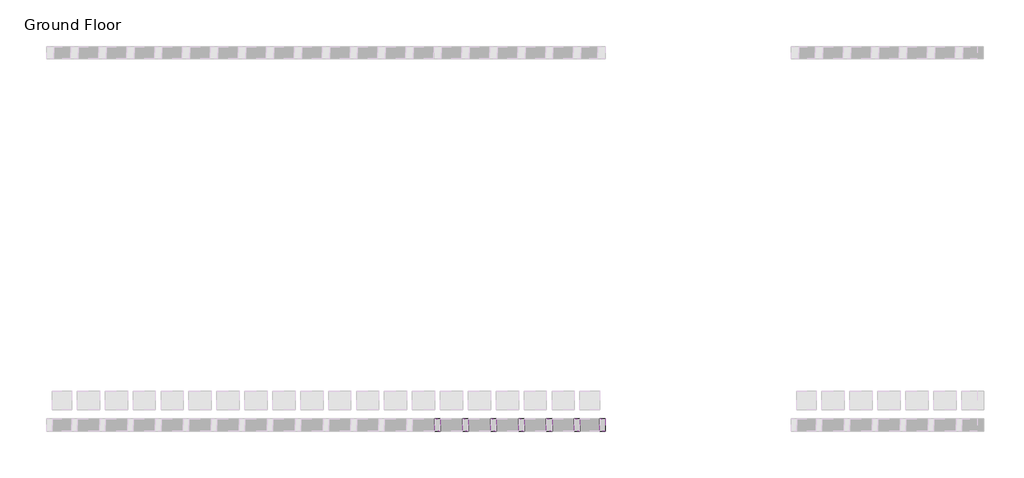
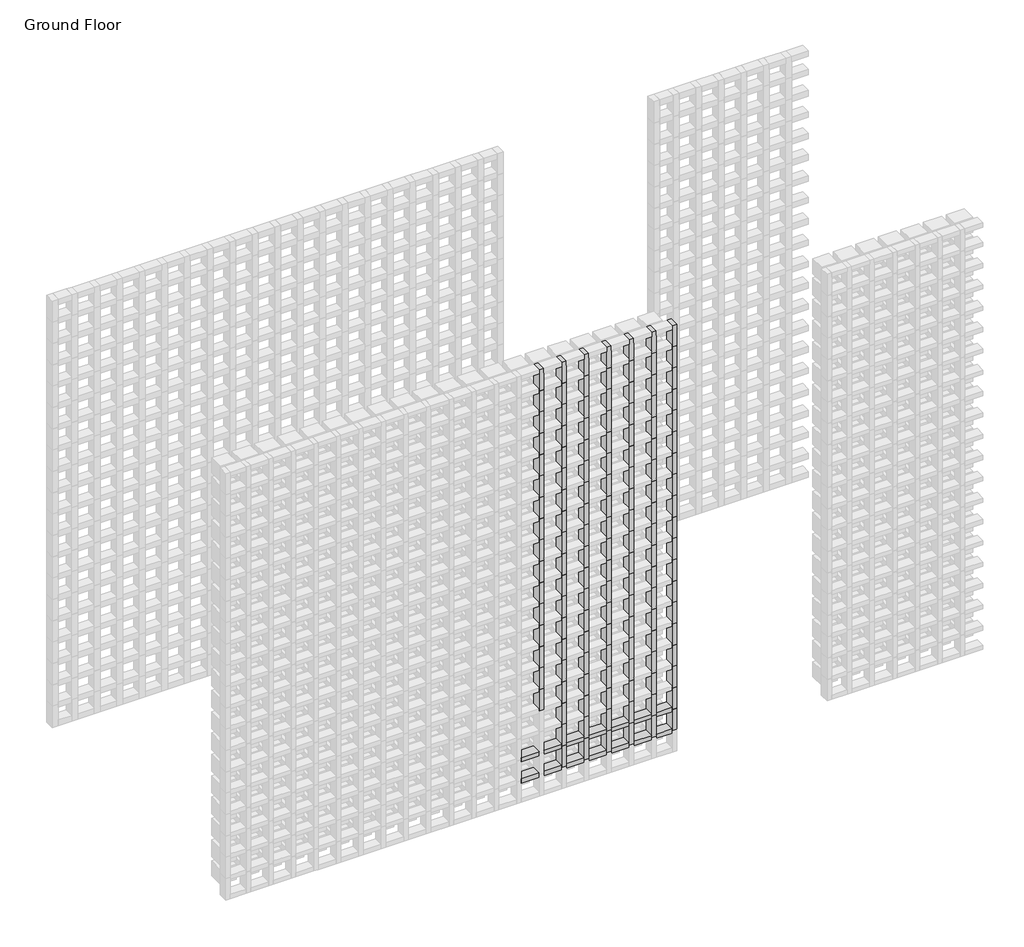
# One storey, part 63 of 350: 144 members.
"""IFC4 building model written with IfcOpenShell, lengths in millimetres."""

from ifc_helpers import new_model, si_unit, origin, place, context, project, spatial, transform, mapped, element, save
from components import rectangular_mullion_5b501421, rectangular_mullion_e9e2e2fa, rectangular_mullion_f28dea33, rectangular_mullion_a9727e9f

model = new_model("IFC4")

# Units and contexts
model_context = context("Model", 3, world=origin())
ifc_project = project(units=[si_unit("LENGTHUNIT", "METRE", prefix="MILLI")], contexts=[model_context])

# Site, building, storey
site = spatial("IfcSite", under=ifc_project)
building = spatial("IfcBuilding", under=site)
storey = spatial("IfcBuildingStorey", under=building, Name="Ground Floor", Elevation=0.0)

# Members
placement = place(None, origin())
rectangular_mullion_shape = rectangular_mullion_5b501421(model_context)
element("IfcMember", 1, ObjectType="Rectangular Mullion : Batten_Timber_Modinex_Austratus_Grid_Fascia_30x65_Blackbutt", at=placement, inside=storey, context=model_context, shape_type="MappedRepresentation", body=[
    mapped(rectangular_mullion_shape, transform((8016.4361642, 38968.2978302, 600.0), x_axis=(1.0, 0.0, 0.0), y_axis=(0.0, -1.0, 0.0), z_axis=(0.0, 0.0, -1.0))),
])
element("IfcMember", 2, ObjectType="Rectangular Mullion : Batten_Timber_Modinex_Austratus_Grid_Fascia_30x65_Blackbutt", at=placement, inside=storey, context=model_context, shape_type="MappedRepresentation", body=[
    mapped(rectangular_mullion_shape, transform((8016.4361642, 38968.2978302, 750.0), x_axis=(1.0, 0.0, 0.0), y_axis=(0.0, -1.0, 0.0), z_axis=(0.0, 0.0, -1.0))),
])
element("IfcMember", 3, ObjectType="Rectangular Mullion : Batten_Timber_Modinex_Austratus_Grid_Fascia_30x65_Blackbutt", at=placement, inside=storey, context=model_context, shape_type="MappedRepresentation", body=[
    mapped(rectangular_mullion_shape, transform((8016.4361642, 38968.2978302, 900.0), x_axis=(1.0, 0.0, 0.0), y_axis=(0.0, -1.0, 0.0), z_axis=(0.0, 0.0, -1.0))),
])
element("IfcMember", 4, ObjectType="Rectangular Mullion : Batten_Timber_Modinex_Austratus_Grid_Fascia_30x65_Blackbutt", at=placement, inside=storey, context=model_context, shape_type="MappedRepresentation", body=[
    mapped(rectangular_mullion_shape, transform((8016.4361642, 38968.2978302, 1050.0), x_axis=(1.0, 0.0, 0.0), y_axis=(0.0, -1.0, 0.0), z_axis=(0.0, 0.0, -1.0))),
])
element("IfcMember", 5, ObjectType="Rectangular Mullion : Batten_Timber_Modinex_Austratus_Grid_Fascia_30x65_Blackbutt", at=placement, inside=storey, context=model_context, shape_type="MappedRepresentation", body=[
    mapped(rectangular_mullion_shape, transform((8016.4361642, 38968.2978302, 1200.0), x_axis=(1.0, 0.0, 0.0), y_axis=(0.0, -1.0, 0.0), z_axis=(0.0, 0.0, -1.0))),
])
element("IfcMember", 6, ObjectType="Rectangular Mullion : Batten_Timber_Modinex_Austratus_Grid_Fascia_30x65_Blackbutt", at=placement, inside=storey, context=model_context, shape_type="MappedRepresentation", body=[
    mapped(rectangular_mullion_shape, transform((8016.4361642, 38968.2978302, 1350.0), x_axis=(1.0, 0.0, 0.0), y_axis=(0.0, -1.0, 0.0), z_axis=(0.0, 0.0, -1.0))),
])
element("IfcMember", 7, ObjectType="Rectangular Mullion : Batten_Timber_Modinex_Austratus_Grid_Fascia_30x65_Blackbutt", at=placement, inside=storey, context=model_context, shape_type="MappedRepresentation", body=[
    mapped(rectangular_mullion_shape, transform((8016.4361642, 38968.2978302, 1500.0), x_axis=(1.0, 0.0, 0.0), y_axis=(0.0, -1.0, 0.0), z_axis=(0.0, 0.0, -1.0))),
])
element("IfcMember", 8, ObjectType="Rectangular Mullion : Batten_Timber_Modinex_Austratus_Grid_Fascia_30x65_Blackbutt", at=placement, inside=storey, context=model_context, shape_type="MappedRepresentation", body=[
    mapped(rectangular_mullion_shape, transform((8016.4361642, 38968.2978302, 1650.0), x_axis=(1.0, 0.0, 0.0), y_axis=(0.0, -1.0, 0.0), z_axis=(0.0, 0.0, -1.0))),
])
element("IfcMember", 9, ObjectType="Rectangular Mullion : Batten_Timber_Modinex_Austratus_Grid_Fascia_30x65_Blackbutt", at=placement, inside=storey, context=model_context, shape_type="MappedRepresentation", body=[
    mapped(rectangular_mullion_shape, transform((8016.4361642, 38968.2978302, 1800.0), x_axis=(1.0, 0.0, 0.0), y_axis=(0.0, -1.0, 0.0), z_axis=(0.0, 0.0, -1.0))),
])
element("IfcMember", 10, ObjectType="Rectangular Mullion : Batten_Timber_Modinex_Austratus_Grid_Fascia_30x65_Blackbutt", at=placement, inside=storey, context=model_context, shape_type="MappedRepresentation", body=[
    mapped(rectangular_mullion_shape, transform((8016.4361642, 38968.2978302, 1950.0), x_axis=(1.0, 0.0, 0.0), y_axis=(0.0, -1.0, 0.0), z_axis=(0.0, 0.0, -1.0))),
])
element("IfcMember", 11, ObjectType="Rectangular Mullion : Batten_Timber_Modinex_Austratus_Grid_Fascia_30x65_Blackbutt", at=placement, inside=storey, context=model_context, shape_type="MappedRepresentation", body=[
    mapped(rectangular_mullion_shape, transform((8016.4361642, 38968.2978302, 2100.0), x_axis=(1.0, 0.0, 0.0), y_axis=(0.0, -1.0, 0.0), z_axis=(0.0, 0.0, -1.0))),
])
element("IfcMember", 12, ObjectType="Rectangular Mullion : Batten_Timber_Modinex_Austratus_Grid_Fascia_30x65_Blackbutt", at=placement, inside=storey, context=model_context, shape_type="MappedRepresentation", body=[
    mapped(rectangular_mullion_shape, transform((8016.4361642, 38968.2978302, 2250.0), x_axis=(1.0, 0.0, 0.0), y_axis=(0.0, -1.0, 0.0), z_axis=(0.0, 0.0, -1.0))),
])
element("IfcMember", 13, ObjectType="Rectangular Mullion : Batten_Timber_Modinex_Austratus_Grid_Fascia_30x65_Blackbutt", at=placement, inside=storey, context=model_context, shape_type="MappedRepresentation", body=[
    mapped(rectangular_mullion_shape, transform((8016.4361642, 38968.2978302, 2400.0), x_axis=(1.0, 0.0, 0.0), y_axis=(0.0, -1.0, 0.0), z_axis=(0.0, 0.0, -1.0))),
])
element("IfcMember", 14, ObjectType="Rectangular Mullion : Batten_Timber_Modinex_Austratus_Grid_Fascia_30x65_Blackbutt", at=placement, inside=storey, context=model_context, shape_type="MappedRepresentation", body=[
    mapped(rectangular_mullion_shape, transform((8016.4361642, 38968.2978302, 2550.0), x_axis=(1.0, 0.0, 0.0), y_axis=(0.0, -1.0, 0.0), z_axis=(0.0, 0.0, -1.0))),
])
element("IfcMember", 15, ObjectType="Rectangular Mullion : Batten_Timber_Modinex_Austratus_Grid_Fascia_30x65_Blackbutt", at=placement, inside=storey, context=model_context, shape_type="MappedRepresentation", body=[
    mapped(rectangular_mullion_shape, transform((8016.4361642, 38968.2978302, 2700.0), x_axis=(1.0, 0.0, 0.0), y_axis=(0.0, -1.0, 0.0), z_axis=(0.0, 0.0, -1.0))),
])
element("IfcMember", 16, ObjectType="Rectangular Mullion : Batten_Timber_Modinex_Austratus_Grid_Fascia_30x65_Blackbutt", at=placement, inside=storey, context=model_context, shape_type="MappedRepresentation", body=[
    mapped(rectangular_mullion_shape, transform((8166.4361642, 38968.2978302, 150.0), x_axis=(1.0, 0.0, 0.0), y_axis=(0.0, -1.0, 0.0), z_axis=(0.0, 0.0, -1.0))),
])
element("IfcMember", 17, ObjectType="Rectangular Mullion : Batten_Timber_Modinex_Austratus_Grid_Fascia_30x65_Blackbutt", at=placement, inside=storey, context=model_context, shape_type="MappedRepresentation", body=[
    mapped(rectangular_mullion_shape, transform((8166.4361642, 38968.2978302, 300.0), x_axis=(1.0, 0.0, 0.0), y_axis=(0.0, -1.0, 0.0), z_axis=(0.0, 0.0, -1.0))),
])
element("IfcMember", 18, ObjectType="Rectangular Mullion : Batten_Timber_Modinex_Austratus_Grid_Fascia_30x65_Blackbutt", at=placement, inside=storey, context=model_context, shape_type="MappedRepresentation", body=[
    mapped(rectangular_mullion_shape, transform((8166.4361642, 38968.2978302, 450.0), x_axis=(1.0, 0.0, 0.0), y_axis=(0.0, -1.0, 0.0), z_axis=(0.0, 0.0, -1.0))),
])
element("IfcMember", 19, ObjectType="Rectangular Mullion : Batten_Timber_Modinex_Austratus_Grid_Fascia_30x65_Blackbutt", at=placement, inside=storey, context=model_context, shape_type="MappedRepresentation", body=[
    mapped(rectangular_mullion_shape, transform((8166.4361642, 38968.2978302, 600.0), x_axis=(1.0, 0.0, 0.0), y_axis=(0.0, -1.0, 0.0), z_axis=(0.0, 0.0, -1.0))),
])
element("IfcMember", 20, ObjectType="Rectangular Mullion : Batten_Timber_Modinex_Austratus_Grid_Fascia_30x65_Blackbutt", at=placement, inside=storey, context=model_context, shape_type="MappedRepresentation", body=[
    mapped(rectangular_mullion_shape, transform((8166.4361642, 38968.2978302, 750.0), x_axis=(1.0, 0.0, 0.0), y_axis=(0.0, -1.0, 0.0), z_axis=(0.0, 0.0, -1.0))),
])
element("IfcMember", 21, ObjectType="Rectangular Mullion : Batten_Timber_Modinex_Austratus_Grid_Fascia_30x65_Blackbutt", at=placement, inside=storey, context=model_context, shape_type="MappedRepresentation", body=[
    mapped(rectangular_mullion_shape, transform((8166.4361642, 38968.2978302, 900.0), x_axis=(1.0, 0.0, 0.0), y_axis=(0.0, -1.0, 0.0), z_axis=(0.0, 0.0, -1.0))),
])
element("IfcMember", 22, ObjectType="Rectangular Mullion : Batten_Timber_Modinex_Austratus_Grid_Fascia_30x65_Blackbutt", at=placement, inside=storey, context=model_context, shape_type="MappedRepresentation", body=[
    mapped(rectangular_mullion_shape, transform((8166.4361642, 38968.2978302, 1050.0), x_axis=(1.0, 0.0, 0.0), y_axis=(0.0, -1.0, 0.0), z_axis=(0.0, 0.0, -1.0))),
])
element("IfcMember", 23, ObjectType="Rectangular Mullion : Batten_Timber_Modinex_Austratus_Grid_Fascia_30x65_Blackbutt", at=placement, inside=storey, context=model_context, shape_type="MappedRepresentation", body=[
    mapped(rectangular_mullion_shape, transform((8166.4361642, 38968.2978302, 1200.0), x_axis=(1.0, 0.0, 0.0), y_axis=(0.0, -1.0, 0.0), z_axis=(0.0, 0.0, -1.0))),
])
element("IfcMember", 24, ObjectType="Rectangular Mullion : Batten_Timber_Modinex_Austratus_Grid_Fascia_30x65_Blackbutt", at=placement, inside=storey, context=model_context, shape_type="MappedRepresentation", body=[
    mapped(rectangular_mullion_shape, transform((8166.4361642, 38968.2978302, 1350.0), x_axis=(1.0, 0.0, 0.0), y_axis=(0.0, -1.0, 0.0), z_axis=(0.0, 0.0, -1.0))),
])
element("IfcMember", 25, ObjectType="Rectangular Mullion : Batten_Timber_Modinex_Austratus_Grid_Fascia_30x65_Blackbutt", at=placement, inside=storey, context=model_context, shape_type="MappedRepresentation", body=[
    mapped(rectangular_mullion_shape, transform((8166.4361642, 38968.2978302, 1500.0), x_axis=(1.0, 0.0, 0.0), y_axis=(0.0, -1.0, 0.0), z_axis=(0.0, 0.0, -1.0))),
])
element("IfcMember", 26, ObjectType="Rectangular Mullion : Batten_Timber_Modinex_Austratus_Grid_Fascia_30x65_Blackbutt", at=placement, inside=storey, context=model_context, shape_type="MappedRepresentation", body=[
    mapped(rectangular_mullion_shape, transform((8166.4361642, 38968.2978302, 1650.0), x_axis=(1.0, 0.0, 0.0), y_axis=(0.0, -1.0, 0.0), z_axis=(0.0, 0.0, -1.0))),
])
element("IfcMember", 27, ObjectType="Rectangular Mullion : Batten_Timber_Modinex_Austratus_Grid_Fascia_30x65_Blackbutt", at=placement, inside=storey, context=model_context, shape_type="MappedRepresentation", body=[
    mapped(rectangular_mullion_shape, transform((8166.4361642, 38968.2978302, 1800.0), x_axis=(1.0, 0.0, 0.0), y_axis=(0.0, -1.0, 0.0), z_axis=(0.0, 0.0, -1.0))),
])
element("IfcMember", 28, ObjectType="Rectangular Mullion : Batten_Timber_Modinex_Austratus_Grid_Fascia_30x65_Blackbutt", at=placement, inside=storey, context=model_context, shape_type="MappedRepresentation", body=[
    mapped(rectangular_mullion_shape, transform((8166.4361642, 38968.2978302, 1950.0), x_axis=(1.0, 0.0, 0.0), y_axis=(0.0, -1.0, 0.0), z_axis=(0.0, 0.0, -1.0))),
])
element("IfcMember", 29, ObjectType="Rectangular Mullion : Batten_Timber_Modinex_Austratus_Grid_Fascia_30x65_Blackbutt", at=placement, inside=storey, context=model_context, shape_type="MappedRepresentation", body=[
    mapped(rectangular_mullion_shape, transform((8166.4361642, 38968.2978302, 2100.0), x_axis=(1.0, 0.0, 0.0), y_axis=(0.0, -1.0, 0.0), z_axis=(0.0, 0.0, -1.0))),
])
element("IfcMember", 30, ObjectType="Rectangular Mullion : Batten_Timber_Modinex_Austratus_Grid_Fascia_30x65_Blackbutt", at=placement, inside=storey, context=model_context, shape_type="MappedRepresentation", body=[
    mapped(rectangular_mullion_shape, transform((8166.4361642, 38968.2978302, 2250.0), x_axis=(1.0, 0.0, 0.0), y_axis=(0.0, -1.0, 0.0), z_axis=(0.0, 0.0, -1.0))),
])
element("IfcMember", 31, ObjectType="Rectangular Mullion : Batten_Timber_Modinex_Austratus_Grid_Fascia_30x65_Blackbutt", at=placement, inside=storey, context=model_context, shape_type="MappedRepresentation", body=[
    mapped(rectangular_mullion_shape, transform((8166.4361642, 38968.2978302, 2400.0), x_axis=(1.0, 0.0, 0.0), y_axis=(0.0, -1.0, 0.0), z_axis=(0.0, 0.0, -1.0))),
])
element("IfcMember", 32, ObjectType="Rectangular Mullion : Batten_Timber_Modinex_Austratus_Grid_Fascia_30x65_Blackbutt", at=placement, inside=storey, context=model_context, shape_type="MappedRepresentation", body=[
    mapped(rectangular_mullion_shape, transform((8166.4361642, 38968.2978302, 2550.0), x_axis=(1.0, 0.0, 0.0), y_axis=(0.0, -1.0, 0.0), z_axis=(0.0, 0.0, -1.0))),
])
element("IfcMember", 33, ObjectType="Rectangular Mullion : Batten_Timber_Modinex_Austratus_Grid_Fascia_30x65_Blackbutt", at=placement, inside=storey, context=model_context, shape_type="MappedRepresentation", body=[
    mapped(rectangular_mullion_shape, transform((8166.4361642, 38968.2978302, 2700.0), x_axis=(1.0, 0.0, 0.0), y_axis=(0.0, -1.0, 0.0), z_axis=(0.0, 0.0, -1.0))),
])
element("IfcMember", 34, ObjectType="Rectangular Mullion : Batten_Timber_Modinex_Austratus_Grid_Fascia_30x65_Blackbutt", at=placement, inside=storey, context=model_context, shape_type="MappedRepresentation", body=[
    mapped(rectangular_mullion_shape, transform((8316.4361642, 38968.2978302, 150.0), x_axis=(1.0, 0.0, 0.0), y_axis=(0.0, -1.0, 0.0), z_axis=(0.0, 0.0, -1.0))),
])
element("IfcMember", 35, ObjectType="Rectangular Mullion : Batten_Timber_Modinex_Austratus_Grid_Fascia_30x65_Blackbutt", at=placement, inside=storey, context=model_context, shape_type="MappedRepresentation", body=[
    mapped(rectangular_mullion_shape, transform((8316.4361642, 38968.2978302, 300.0), x_axis=(1.0, 0.0, 0.0), y_axis=(0.0, -1.0, 0.0), z_axis=(0.0, 0.0, -1.0))),
])
element("IfcMember", 36, ObjectType="Rectangular Mullion : Batten_Timber_Modinex_Austratus_Grid_Fascia_30x65_Blackbutt", at=placement, inside=storey, context=model_context, shape_type="MappedRepresentation", body=[
    mapped(rectangular_mullion_shape, transform((8316.4361642, 38968.2978302, 450.0), x_axis=(1.0, 0.0, 0.0), y_axis=(0.0, -1.0, 0.0), z_axis=(0.0, 0.0, -1.0))),
])
element("IfcMember", 37, ObjectType="Rectangular Mullion : Batten_Timber_Modinex_Austratus_Grid_Fascia_30x65_Blackbutt", at=placement, inside=storey, context=model_context, shape_type="MappedRepresentation", body=[
    mapped(rectangular_mullion_shape, transform((8316.4361642, 38968.2978302, 600.0), x_axis=(1.0, 0.0, 0.0), y_axis=(0.0, -1.0, 0.0), z_axis=(0.0, 0.0, -1.0))),
])
element("IfcMember", 38, ObjectType="Rectangular Mullion : Batten_Timber_Modinex_Austratus_Grid_Fascia_30x65_Blackbutt", at=placement, inside=storey, context=model_context, shape_type="MappedRepresentation", body=[
    mapped(rectangular_mullion_shape, transform((8316.4361642, 38968.2978302, 750.0), x_axis=(1.0, 0.0, 0.0), y_axis=(0.0, -1.0, 0.0), z_axis=(0.0, 0.0, -1.0))),
])
element("IfcMember", 39, ObjectType="Rectangular Mullion : Batten_Timber_Modinex_Austratus_Grid_Fascia_30x65_Blackbutt", at=placement, inside=storey, context=model_context, shape_type="MappedRepresentation", body=[
    mapped(rectangular_mullion_shape, transform((8316.4361642, 38968.2978302, 900.0), x_axis=(1.0, 0.0, 0.0), y_axis=(0.0, -1.0, 0.0), z_axis=(0.0, 0.0, -1.0))),
])
element("IfcMember", 40, ObjectType="Rectangular Mullion : Batten_Timber_Modinex_Austratus_Grid_Fascia_30x65_Blackbutt", at=placement, inside=storey, context=model_context, shape_type="MappedRepresentation", body=[
    mapped(rectangular_mullion_shape, transform((8316.4361642, 38968.2978302, 1050.0), x_axis=(1.0, 0.0, 0.0), y_axis=(0.0, -1.0, 0.0), z_axis=(0.0, 0.0, -1.0))),
])
element("IfcMember", 41, ObjectType="Rectangular Mullion : Batten_Timber_Modinex_Austratus_Grid_Fascia_30x65_Blackbutt", at=placement, inside=storey, context=model_context, shape_type="MappedRepresentation", body=[
    mapped(rectangular_mullion_shape, transform((8316.4361642, 38968.2978302, 1200.0), x_axis=(1.0, 0.0, 0.0), y_axis=(0.0, -1.0, 0.0), z_axis=(0.0, 0.0, -1.0))),
])
element("IfcMember", 42, ObjectType="Rectangular Mullion : Batten_Timber_Modinex_Austratus_Grid_Fascia_30x65_Blackbutt", at=placement, inside=storey, context=model_context, shape_type="MappedRepresentation", body=[
    mapped(rectangular_mullion_shape, transform((8316.4361642, 38968.2978302, 1350.0), x_axis=(1.0, 0.0, 0.0), y_axis=(0.0, -1.0, 0.0), z_axis=(0.0, 0.0, -1.0))),
])
element("IfcMember", 43, ObjectType="Rectangular Mullion : Batten_Timber_Modinex_Austratus_Grid_Fascia_30x65_Blackbutt", at=placement, inside=storey, context=model_context, shape_type="MappedRepresentation", body=[
    mapped(rectangular_mullion_shape, transform((8316.4361642, 38968.2978302, 1500.0), x_axis=(1.0, 0.0, 0.0), y_axis=(0.0, -1.0, 0.0), z_axis=(0.0, 0.0, -1.0))),
])
element("IfcMember", 44, ObjectType="Rectangular Mullion : Batten_Timber_Modinex_Austratus_Grid_Fascia_30x65_Blackbutt", at=placement, inside=storey, context=model_context, shape_type="MappedRepresentation", body=[
    mapped(rectangular_mullion_shape, transform((8316.4361642, 38968.2978302, 1650.0), x_axis=(1.0, 0.0, 0.0), y_axis=(0.0, -1.0, 0.0), z_axis=(0.0, 0.0, -1.0))),
])
element("IfcMember", 45, ObjectType="Rectangular Mullion : Batten_Timber_Modinex_Austratus_Grid_Fascia_30x65_Blackbutt", at=placement, inside=storey, context=model_context, shape_type="MappedRepresentation", body=[
    mapped(rectangular_mullion_shape, transform((8316.4361642, 38968.2978302, 1800.0), x_axis=(1.0, 0.0, 0.0), y_axis=(0.0, -1.0, 0.0), z_axis=(0.0, 0.0, -1.0))),
])
element("IfcMember", 46, ObjectType="Rectangular Mullion : Batten_Timber_Modinex_Austratus_Grid_Fascia_30x65_Blackbutt", at=placement, inside=storey, context=model_context, shape_type="MappedRepresentation", body=[
    mapped(rectangular_mullion_shape, transform((8316.4361642, 38968.2978302, 1950.0), x_axis=(1.0, 0.0, 0.0), y_axis=(0.0, -1.0, 0.0), z_axis=(0.0, 0.0, -1.0))),
])
element("IfcMember", 47, ObjectType="Rectangular Mullion : Batten_Timber_Modinex_Austratus_Grid_Fascia_30x65_Blackbutt", at=placement, inside=storey, context=model_context, shape_type="MappedRepresentation", body=[
    mapped(rectangular_mullion_shape, transform((8316.4361642, 38968.2978302, 2100.0), x_axis=(1.0, 0.0, 0.0), y_axis=(0.0, -1.0, 0.0), z_axis=(0.0, 0.0, -1.0))),
])
element("IfcMember", 48, ObjectType="Rectangular Mullion : Batten_Timber_Modinex_Austratus_Grid_Fascia_30x65_Blackbutt", at=placement, inside=storey, context=model_context, shape_type="MappedRepresentation", body=[
    mapped(rectangular_mullion_shape, transform((8316.4361642, 38968.2978302, 2250.0), x_axis=(1.0, 0.0, 0.0), y_axis=(0.0, -1.0, 0.0), z_axis=(0.0, 0.0, -1.0))),
])
element("IfcMember", 49, ObjectType="Rectangular Mullion : Batten_Timber_Modinex_Austratus_Grid_Fascia_30x65_Blackbutt", at=placement, inside=storey, context=model_context, shape_type="MappedRepresentation", body=[
    mapped(rectangular_mullion_shape, transform((8316.4361642, 38968.2978302, 2400.0), x_axis=(1.0, 0.0, 0.0), y_axis=(0.0, -1.0, 0.0), z_axis=(0.0, 0.0, -1.0))),
])
element("IfcMember", 50, ObjectType="Rectangular Mullion : Batten_Timber_Modinex_Austratus_Grid_Fascia_30x65_Blackbutt", at=placement, inside=storey, context=model_context, shape_type="MappedRepresentation", body=[
    mapped(rectangular_mullion_shape, transform((8316.4361642, 38968.2978302, 2550.0), x_axis=(1.0, 0.0, 0.0), y_axis=(0.0, -1.0, 0.0), z_axis=(0.0, 0.0, -1.0))),
])
element("IfcMember", 51, ObjectType="Rectangular Mullion : Batten_Timber_Modinex_Austratus_Grid_Fascia_30x65_Blackbutt", at=placement, inside=storey, context=model_context, shape_type="MappedRepresentation", body=[
    mapped(rectangular_mullion_shape, transform((8316.4361642, 38968.2978302, 2700.0), x_axis=(1.0, 0.0, 0.0), y_axis=(0.0, -1.0, 0.0), z_axis=(0.0, 0.0, -1.0))),
])
element("IfcMember", 52, ObjectType="Rectangular Mullion : Batten_Timber_Modinex_Austratus_Grid_Fascia_30x65_Blackbutt", at=placement, inside=storey, context=model_context, shape_type="MappedRepresentation", body=[
    mapped(rectangular_mullion_shape, transform((8466.4361642, 38968.2978302, 150.0), x_axis=(1.0, 0.0, 0.0), y_axis=(0.0, -1.0, 0.0), z_axis=(0.0, 0.0, -1.0))),
])
element("IfcMember", 53, ObjectType="Rectangular Mullion : Batten_Timber_Modinex_Austratus_Grid_Fascia_30x65_Blackbutt", at=placement, inside=storey, context=model_context, shape_type="MappedRepresentation", body=[
    mapped(rectangular_mullion_shape, transform((8466.4361642, 38968.2978302, 300.0), x_axis=(1.0, 0.0, 0.0), y_axis=(0.0, -1.0, 0.0), z_axis=(0.0, 0.0, -1.0))),
])
element("IfcMember", 54, ObjectType="Rectangular Mullion : Batten_Timber_Modinex_Austratus_Grid_Fascia_30x65_Blackbutt", at=placement, inside=storey, context=model_context, shape_type="MappedRepresentation", body=[
    mapped(rectangular_mullion_shape, transform((8466.4361642, 38968.2978302, 450.0), x_axis=(1.0, 0.0, 0.0), y_axis=(0.0, -1.0, 0.0), z_axis=(0.0, 0.0, -1.0))),
])
element("IfcMember", 55, ObjectType="Rectangular Mullion : Batten_Timber_Modinex_Austratus_Grid_Fascia_30x65_Blackbutt", at=placement, inside=storey, context=model_context, shape_type="MappedRepresentation", body=[
    mapped(rectangular_mullion_shape, transform((8466.4361642, 38968.2978302, 600.0), x_axis=(1.0, 0.0, 0.0), y_axis=(0.0, -1.0, 0.0), z_axis=(0.0, 0.0, -1.0))),
])
element("IfcMember", 56, ObjectType="Rectangular Mullion : Batten_Timber_Modinex_Austratus_Grid_Fascia_30x65_Blackbutt", at=placement, inside=storey, context=model_context, shape_type="MappedRepresentation", body=[
    mapped(rectangular_mullion_shape, transform((8466.4361642, 38968.2978302, 750.0), x_axis=(1.0, 0.0, 0.0), y_axis=(0.0, -1.0, 0.0), z_axis=(0.0, 0.0, -1.0))),
])
element("IfcMember", 57, ObjectType="Rectangular Mullion : Batten_Timber_Modinex_Austratus_Grid_Fascia_30x65_Blackbutt", at=placement, inside=storey, context=model_context, shape_type="MappedRepresentation", body=[
    mapped(rectangular_mullion_shape, transform((8466.4361642, 38968.2978302, 900.0), x_axis=(1.0, 0.0, 0.0), y_axis=(0.0, -1.0, 0.0), z_axis=(0.0, 0.0, -1.0))),
])
element("IfcMember", 58, ObjectType="Rectangular Mullion : Batten_Timber_Modinex_Austratus_Grid_Fascia_30x65_Blackbutt", at=placement, inside=storey, context=model_context, shape_type="MappedRepresentation", body=[
    mapped(rectangular_mullion_shape, transform((8466.4361642, 38968.2978302, 1050.0), x_axis=(1.0, 0.0, 0.0), y_axis=(0.0, -1.0, 0.0), z_axis=(0.0, 0.0, -1.0))),
])
element("IfcMember", 59, ObjectType="Rectangular Mullion : Batten_Timber_Modinex_Austratus_Grid_Fascia_30x65_Blackbutt", at=placement, inside=storey, context=model_context, shape_type="MappedRepresentation", body=[
    mapped(rectangular_mullion_shape, transform((8466.4361642, 38968.2978302, 1200.0), x_axis=(1.0, 0.0, 0.0), y_axis=(0.0, -1.0, 0.0), z_axis=(0.0, 0.0, -1.0))),
])
element("IfcMember", 60, ObjectType="Rectangular Mullion : Batten_Timber_Modinex_Austratus_Grid_Fascia_30x65_Blackbutt", at=placement, inside=storey, context=model_context, shape_type="MappedRepresentation", body=[
    mapped(rectangular_mullion_shape, transform((8466.4361642, 38968.2978302, 1350.0), x_axis=(1.0, 0.0, 0.0), y_axis=(0.0, -1.0, 0.0), z_axis=(0.0, 0.0, -1.0))),
])
element("IfcMember", 61, ObjectType="Rectangular Mullion : Batten_Timber_Modinex_Austratus_Grid_Fascia_30x65_Blackbutt", at=placement, inside=storey, context=model_context, shape_type="MappedRepresentation", body=[
    mapped(rectangular_mullion_shape, transform((8466.4361642, 38968.2978302, 1500.0), x_axis=(1.0, 0.0, 0.0), y_axis=(0.0, -1.0, 0.0), z_axis=(0.0, 0.0, -1.0))),
])
element("IfcMember", 62, ObjectType="Rectangular Mullion : Batten_Timber_Modinex_Austratus_Grid_Fascia_30x65_Blackbutt", at=placement, inside=storey, context=model_context, shape_type="MappedRepresentation", body=[
    mapped(rectangular_mullion_shape, transform((8466.4361642, 38968.2978302, 1650.0), x_axis=(1.0, 0.0, 0.0), y_axis=(0.0, -1.0, 0.0), z_axis=(0.0, 0.0, -1.0))),
])
element("IfcMember", 63, ObjectType="Rectangular Mullion : Batten_Timber_Modinex_Austratus_Grid_Fascia_30x65_Blackbutt", at=placement, inside=storey, context=model_context, shape_type="MappedRepresentation", body=[
    mapped(rectangular_mullion_shape, transform((8466.4361642, 38968.2978302, 1800.0), x_axis=(1.0, 0.0, 0.0), y_axis=(0.0, -1.0, 0.0), z_axis=(0.0, 0.0, -1.0))),
])
element("IfcMember", 64, ObjectType="Rectangular Mullion : Batten_Timber_Modinex_Austratus_Grid_Fascia_30x65_Blackbutt", at=placement, inside=storey, context=model_context, shape_type="MappedRepresentation", body=[
    mapped(rectangular_mullion_shape, transform((8466.4361642, 38968.2978302, 1950.0), x_axis=(1.0, 0.0, 0.0), y_axis=(0.0, -1.0, 0.0), z_axis=(0.0, 0.0, -1.0))),
])
element("IfcMember", 65, ObjectType="Rectangular Mullion : Batten_Timber_Modinex_Austratus_Grid_Fascia_30x65_Blackbutt", at=placement, inside=storey, context=model_context, shape_type="MappedRepresentation", body=[
    mapped(rectangular_mullion_shape, transform((8466.4361642, 38968.2978302, 2100.0), x_axis=(1.0, 0.0, 0.0), y_axis=(0.0, -1.0, 0.0), z_axis=(0.0, 0.0, -1.0))),
])
element("IfcMember", 66, ObjectType="Rectangular Mullion : Batten_Timber_Modinex_Austratus_Grid_Fascia_30x65_Blackbutt", at=placement, inside=storey, context=model_context, shape_type="MappedRepresentation", body=[
    mapped(rectangular_mullion_shape, transform((8466.4361642, 38968.2978302, 2250.0), x_axis=(1.0, 0.0, 0.0), y_axis=(0.0, -1.0, 0.0), z_axis=(0.0, 0.0, -1.0))),
])
element("IfcMember", 67, ObjectType="Rectangular Mullion : Batten_Timber_Modinex_Austratus_Grid_Fascia_30x65_Blackbutt", at=placement, inside=storey, context=model_context, shape_type="MappedRepresentation", body=[
    mapped(rectangular_mullion_shape, transform((8466.4361642, 38968.2978302, 2400.0), x_axis=(1.0, 0.0, 0.0), y_axis=(0.0, -1.0, 0.0), z_axis=(0.0, 0.0, -1.0))),
])
element("IfcMember", 68, ObjectType="Rectangular Mullion : Batten_Timber_Modinex_Austratus_Grid_Fascia_30x65_Blackbutt", at=placement, inside=storey, context=model_context, shape_type="MappedRepresentation", body=[
    mapped(rectangular_mullion_shape, transform((8466.4361642, 38968.2978302, 2550.0), x_axis=(1.0, 0.0, 0.0), y_axis=(0.0, -1.0, 0.0), z_axis=(0.0, 0.0, -1.0))),
])
element("IfcMember", 69, ObjectType="Rectangular Mullion : Batten_Timber_Modinex_Austratus_Grid_Fascia_30x65_Blackbutt", at=placement, inside=storey, context=model_context, shape_type="MappedRepresentation", body=[
    mapped(rectangular_mullion_shape, transform((8466.4361642, 38968.2978302, 2700.0), x_axis=(1.0, 0.0, 0.0), y_axis=(0.0, -1.0, 0.0), z_axis=(0.0, 0.0, -1.0))),
])
element("IfcMember", 70, ObjectType="Rectangular Mullion : Batten_Timber_Modinex_Austratus_Grid_Fascia_30x65_Blackbutt", at=placement, inside=storey, context=model_context, shape_type="MappedRepresentation", body=[
    mapped(rectangular_mullion_shape, transform((8616.4361642, 38968.2978302, 150.0), x_axis=(1.0, 0.0, 0.0), y_axis=(0.0, -1.0, 0.0), z_axis=(0.0, 0.0, -1.0))),
])
element("IfcMember", 71, ObjectType="Rectangular Mullion : Batten_Timber_Modinex_Austratus_Grid_Fascia_30x65_Blackbutt", at=placement, inside=storey, context=model_context, shape_type="MappedRepresentation", body=[
    mapped(rectangular_mullion_shape, transform((8616.4361642, 38968.2978302, 300.0), x_axis=(1.0, 0.0, 0.0), y_axis=(0.0, -1.0, 0.0), z_axis=(0.0, 0.0, -1.0))),
])
element("IfcMember", 72, ObjectType="Rectangular Mullion : Batten_Timber_Modinex_Austratus_Grid_Fascia_30x65_Blackbutt", at=placement, inside=storey, context=model_context, shape_type="MappedRepresentation", body=[
    mapped(rectangular_mullion_shape, transform((8616.4361642, 38968.2978302, 450.0), x_axis=(1.0, 0.0, 0.0), y_axis=(0.0, -1.0, 0.0), z_axis=(0.0, 0.0, -1.0))),
])
element("IfcMember", 73, ObjectType="Rectangular Mullion : Batten_Timber_Modinex_Austratus_Grid_Fascia_30x65_Blackbutt", at=placement, inside=storey, context=model_context, shape_type="MappedRepresentation", body=[
    mapped(rectangular_mullion_shape, transform((8616.4361642, 38968.2978302, 600.0), x_axis=(1.0, 0.0, 0.0), y_axis=(0.0, -1.0, 0.0), z_axis=(0.0, 0.0, -1.0))),
])
element("IfcMember", 74, ObjectType="Rectangular Mullion : Batten_Timber_Modinex_Austratus_Grid_Fascia_30x65_Blackbutt", at=placement, inside=storey, context=model_context, shape_type="MappedRepresentation", body=[
    mapped(rectangular_mullion_shape, transform((8616.4361642, 38968.2978302, 750.0), x_axis=(1.0, 0.0, 0.0), y_axis=(0.0, -1.0, 0.0), z_axis=(0.0, 0.0, -1.0))),
])
element("IfcMember", 75, ObjectType="Rectangular Mullion : Batten_Timber_Modinex_Austratus_Grid_Fascia_30x65_Blackbutt", at=placement, inside=storey, context=model_context, shape_type="MappedRepresentation", body=[
    mapped(rectangular_mullion_shape, transform((8616.4361642, 38968.2978302, 900.0), x_axis=(1.0, 0.0, 0.0), y_axis=(0.0, -1.0, 0.0), z_axis=(0.0, 0.0, -1.0))),
])
element("IfcMember", 76, ObjectType="Rectangular Mullion : Batten_Timber_Modinex_Austratus_Grid_Fascia_30x65_Blackbutt", at=placement, inside=storey, context=model_context, shape_type="MappedRepresentation", body=[
    mapped(rectangular_mullion_shape, transform((8616.4361642, 38968.2978302, 1050.0), x_axis=(1.0, 0.0, 0.0), y_axis=(0.0, -1.0, 0.0), z_axis=(0.0, 0.0, -1.0))),
])
element("IfcMember", 77, ObjectType="Rectangular Mullion : Batten_Timber_Modinex_Austratus_Grid_Fascia_30x65_Blackbutt", at=placement, inside=storey, context=model_context, shape_type="MappedRepresentation", body=[
    mapped(rectangular_mullion_shape, transform((8616.4361642, 38968.2978302, 1200.0), x_axis=(1.0, 0.0, 0.0), y_axis=(0.0, -1.0, 0.0), z_axis=(0.0, 0.0, -1.0))),
])
element("IfcMember", 78, ObjectType="Rectangular Mullion : Batten_Timber_Modinex_Austratus_Grid_Fascia_30x65_Blackbutt", at=placement, inside=storey, context=model_context, shape_type="MappedRepresentation", body=[
    mapped(rectangular_mullion_shape, transform((8616.4361642, 38968.2978302, 1350.0), x_axis=(1.0, 0.0, 0.0), y_axis=(0.0, -1.0, 0.0), z_axis=(0.0, 0.0, -1.0))),
])
element("IfcMember", 79, ObjectType="Rectangular Mullion : Batten_Timber_Modinex_Austratus_Grid_Fascia_30x65_Blackbutt", at=placement, inside=storey, context=model_context, shape_type="MappedRepresentation", body=[
    mapped(rectangular_mullion_shape, transform((8616.4361642, 38968.2978302, 1500.0), x_axis=(1.0, 0.0, 0.0), y_axis=(0.0, -1.0, 0.0), z_axis=(0.0, 0.0, -1.0))),
])
element("IfcMember", 80, ObjectType="Rectangular Mullion : Batten_Timber_Modinex_Austratus_Grid_Fascia_30x65_Blackbutt", at=placement, inside=storey, context=model_context, shape_type="MappedRepresentation", body=[
    mapped(rectangular_mullion_shape, transform((8616.4361642, 38968.2978302, 1650.0), x_axis=(1.0, 0.0, 0.0), y_axis=(0.0, -1.0, 0.0), z_axis=(0.0, 0.0, -1.0))),
])
element("IfcMember", 81, ObjectType="Rectangular Mullion : Batten_Timber_Modinex_Austratus_Grid_Fascia_30x65_Blackbutt", at=placement, inside=storey, context=model_context, shape_type="MappedRepresentation", body=[
    mapped(rectangular_mullion_shape, transform((8616.4361642, 38968.2978302, 1800.0), x_axis=(1.0, 0.0, 0.0), y_axis=(0.0, -1.0, 0.0), z_axis=(0.0, 0.0, -1.0))),
])
element("IfcMember", 82, ObjectType="Rectangular Mullion : Batten_Timber_Modinex_Austratus_Grid_Fascia_30x65_Blackbutt", at=placement, inside=storey, context=model_context, shape_type="MappedRepresentation", body=[
    mapped(rectangular_mullion_shape, transform((8616.4361642, 38968.2978302, 1950.0), x_axis=(1.0, 0.0, 0.0), y_axis=(0.0, -1.0, 0.0), z_axis=(0.0, 0.0, -1.0))),
])
element("IfcMember", 83, ObjectType="Rectangular Mullion : Batten_Timber_Modinex_Austratus_Grid_Fascia_30x65_Blackbutt", at=placement, inside=storey, context=model_context, shape_type="MappedRepresentation", body=[
    mapped(rectangular_mullion_shape, transform((8616.4361642, 38968.2978302, 2100.0), x_axis=(1.0, 0.0, 0.0), y_axis=(0.0, -1.0, 0.0), z_axis=(0.0, 0.0, -1.0))),
])
element("IfcMember", 84, ObjectType="Rectangular Mullion : Batten_Timber_Modinex_Austratus_Grid_Fascia_30x65_Blackbutt", at=placement, inside=storey, context=model_context, shape_type="MappedRepresentation", body=[
    mapped(rectangular_mullion_shape, transform((8616.4361642, 38968.2978302, 2250.0), x_axis=(1.0, 0.0, 0.0), y_axis=(0.0, -1.0, 0.0), z_axis=(0.0, 0.0, -1.0))),
])
element("IfcMember", 85, ObjectType="Rectangular Mullion : Batten_Timber_Modinex_Austratus_Grid_Fascia_30x65_Blackbutt", at=placement, inside=storey, context=model_context, shape_type="MappedRepresentation", body=[
    mapped(rectangular_mullion_shape, transform((8616.4361642, 38968.2978302, 2400.0), x_axis=(1.0, 0.0, 0.0), y_axis=(0.0, -1.0, 0.0), z_axis=(0.0, 0.0, -1.0))),
])
element("IfcMember", 86, ObjectType="Rectangular Mullion : Batten_Timber_Modinex_Austratus_Grid_Fascia_30x65_Blackbutt", at=placement, inside=storey, context=model_context, shape_type="MappedRepresentation", body=[
    mapped(rectangular_mullion_shape, transform((8616.4361642, 38968.2978302, 2550.0), x_axis=(1.0, 0.0, 0.0), y_axis=(0.0, -1.0, 0.0), z_axis=(0.0, 0.0, -1.0))),
])
element("IfcMember", 87, ObjectType="Rectangular Mullion : Batten_Timber_Modinex_Austratus_Grid_Fascia_30x65_Blackbutt", at=placement, inside=storey, context=model_context, shape_type="MappedRepresentation", body=[
    mapped(rectangular_mullion_shape, transform((8616.4361642, 38968.2978302, 2700.0), x_axis=(1.0, 0.0, 0.0), y_axis=(0.0, -1.0, 0.0), z_axis=(0.0, 0.0, -1.0))),
])
element("IfcMember", 88, ObjectType="Rectangular Mullion : Batten_Timber_Modinex_Austratus_Grid_Fascia_30x65_Blackbutt", at=placement, inside=storey, context=model_context, shape_type="MappedRepresentation", body=[
    mapped(rectangular_mullion_shape, transform((8766.4361642, 38968.2978302, 150.0), x_axis=(1.0, 0.0, 0.0), y_axis=(0.0, -1.0, 0.0), z_axis=(0.0, 0.0, -1.0))),
])
element("IfcMember", 89, ObjectType="Rectangular Mullion : Batten_Timber_Modinex_Austratus_Grid_Fascia_30x65_Blackbutt", at=placement, inside=storey, context=model_context, shape_type="MappedRepresentation", body=[
    mapped(rectangular_mullion_shape, transform((8766.4361642, 38968.2978302, 300.0), x_axis=(1.0, 0.0, 0.0), y_axis=(0.0, -1.0, 0.0), z_axis=(0.0, 0.0, -1.0))),
])
element("IfcMember", 90, ObjectType="Rectangular Mullion : Batten_Timber_Modinex_Austratus_Grid_Fascia_30x65_Blackbutt", at=placement, inside=storey, context=model_context, shape_type="MappedRepresentation", body=[
    mapped(rectangular_mullion_shape, transform((8766.4361642, 38968.2978302, 450.0), x_axis=(1.0, 0.0, 0.0), y_axis=(0.0, -1.0, 0.0), z_axis=(0.0, 0.0, -1.0))),
])
element("IfcMember", 91, ObjectType="Rectangular Mullion : Batten_Timber_Modinex_Austratus_Grid_Fascia_30x65_Blackbutt", at=placement, inside=storey, context=model_context, shape_type="MappedRepresentation", body=[
    mapped(rectangular_mullion_shape, transform((8766.4361642, 38968.2978302, 600.0), x_axis=(1.0, 0.0, 0.0), y_axis=(0.0, -1.0, 0.0), z_axis=(0.0, 0.0, -1.0))),
])
element("IfcMember", 92, ObjectType="Rectangular Mullion : Batten_Timber_Modinex_Austratus_Grid_Fascia_30x65_Blackbutt", at=placement, inside=storey, context=model_context, shape_type="MappedRepresentation", body=[
    mapped(rectangular_mullion_shape, transform((8766.4361642, 38968.2978302, 750.0), x_axis=(1.0, 0.0, 0.0), y_axis=(0.0, -1.0, 0.0), z_axis=(0.0, 0.0, -1.0))),
])
element("IfcMember", 93, ObjectType="Rectangular Mullion : Batten_Timber_Modinex_Austratus_Grid_Fascia_30x65_Blackbutt", at=placement, inside=storey, context=model_context, shape_type="MappedRepresentation", body=[
    mapped(rectangular_mullion_shape, transform((8766.4361642, 38968.2978302, 900.0), x_axis=(1.0, 0.0, 0.0), y_axis=(0.0, -1.0, 0.0), z_axis=(0.0, 0.0, -1.0))),
])
element("IfcMember", 94, ObjectType="Rectangular Mullion : Batten_Timber_Modinex_Austratus_Grid_Fascia_30x65_Blackbutt", at=placement, inside=storey, context=model_context, shape_type="MappedRepresentation", body=[
    mapped(rectangular_mullion_shape, transform((8766.4361642, 38968.2978302, 1050.0), x_axis=(1.0, 0.0, 0.0), y_axis=(0.0, -1.0, 0.0), z_axis=(0.0, 0.0, -1.0))),
])
element("IfcMember", 95, ObjectType="Rectangular Mullion : Batten_Timber_Modinex_Austratus_Grid_Fascia_30x65_Blackbutt", at=placement, inside=storey, context=model_context, shape_type="MappedRepresentation", body=[
    mapped(rectangular_mullion_shape, transform((8766.4361642, 38968.2978302, 1200.0), x_axis=(1.0, 0.0, 0.0), y_axis=(0.0, -1.0, 0.0), z_axis=(0.0, 0.0, -1.0))),
])
element("IfcMember", 96, ObjectType="Rectangular Mullion : Batten_Timber_Modinex_Austratus_Grid_Fascia_30x65_Blackbutt", at=placement, inside=storey, context=model_context, shape_type="MappedRepresentation", body=[
    mapped(rectangular_mullion_shape, transform((8766.4361642, 38968.2978302, 1350.0), x_axis=(1.0, 0.0, 0.0), y_axis=(0.0, -1.0, 0.0), z_axis=(0.0, 0.0, -1.0))),
])
element("IfcMember", 97, ObjectType="Rectangular Mullion : Batten_Timber_Modinex_Austratus_Grid_Fascia_30x65_Blackbutt", at=placement, inside=storey, context=model_context, shape_type="MappedRepresentation", body=[
    mapped(rectangular_mullion_shape, transform((8766.4361642, 38968.2978302, 1500.0), x_axis=(1.0, 0.0, 0.0), y_axis=(0.0, -1.0, 0.0), z_axis=(0.0, 0.0, -1.0))),
])
element("IfcMember", 98, ObjectType="Rectangular Mullion : Batten_Timber_Modinex_Austratus_Grid_Fascia_30x65_Blackbutt", at=placement, inside=storey, context=model_context, shape_type="MappedRepresentation", body=[
    mapped(rectangular_mullion_shape, transform((8766.4361642, 38968.2978302, 1650.0), x_axis=(1.0, 0.0, 0.0), y_axis=(0.0, -1.0, 0.0), z_axis=(0.0, 0.0, -1.0))),
])
element("IfcMember", 99, ObjectType="Rectangular Mullion : Batten_Timber_Modinex_Austratus_Grid_Fascia_30x65_Blackbutt", at=placement, inside=storey, context=model_context, shape_type="MappedRepresentation", body=[
    mapped(rectangular_mullion_shape, transform((8766.4361642, 38968.2978302, 1800.0), x_axis=(1.0, 0.0, 0.0), y_axis=(0.0, -1.0, 0.0), z_axis=(0.0, 0.0, -1.0))),
])
element("IfcMember", 100, ObjectType="Rectangular Mullion : Batten_Timber_Modinex_Austratus_Grid_Fascia_30x65_Blackbutt", at=placement, inside=storey, context=model_context, shape_type="MappedRepresentation", body=[
    mapped(rectangular_mullion_shape, transform((8766.4361642, 38968.2978302, 1950.0), x_axis=(1.0, 0.0, 0.0), y_axis=(0.0, -1.0, 0.0), z_axis=(0.0, 0.0, -1.0))),
])
element("IfcMember", 101, ObjectType="Rectangular Mullion : Batten_Timber_Modinex_Austratus_Grid_Fascia_30x65_Blackbutt", at=placement, inside=storey, context=model_context, shape_type="MappedRepresentation", body=[
    mapped(rectangular_mullion_shape, transform((8766.4361642, 38968.2978302, 2100.0), x_axis=(1.0, 0.0, 0.0), y_axis=(0.0, -1.0, 0.0), z_axis=(0.0, 0.0, -1.0))),
])
element("IfcMember", 102, ObjectType="Rectangular Mullion : Batten_Timber_Modinex_Austratus_Grid_Fascia_30x65_Blackbutt", at=placement, inside=storey, context=model_context, shape_type="MappedRepresentation", body=[
    mapped(rectangular_mullion_shape, transform((8766.4361642, 38968.2978302, 2250.0), x_axis=(1.0, 0.0, 0.0), y_axis=(0.0, -1.0, 0.0), z_axis=(0.0, 0.0, -1.0))),
])
element("IfcMember", 103, ObjectType="Rectangular Mullion : Batten_Timber_Modinex_Austratus_Grid_Fascia_30x65_Blackbutt", at=placement, inside=storey, context=model_context, shape_type="MappedRepresentation", body=[
    mapped(rectangular_mullion_shape, transform((8766.4361642, 38968.2978302, 2400.0), x_axis=(1.0, 0.0, 0.0), y_axis=(0.0, -1.0, 0.0), z_axis=(0.0, 0.0, -1.0))),
])
element("IfcMember", 104, ObjectType="Rectangular Mullion : Batten_Timber_Modinex_Austratus_Grid_Fascia_30x65_Blackbutt", at=placement, inside=storey, context=model_context, shape_type="MappedRepresentation", body=[
    mapped(rectangular_mullion_shape, transform((8766.4361642, 38968.2978302, 2550.0), x_axis=(1.0, 0.0, 0.0), y_axis=(0.0, -1.0, 0.0), z_axis=(0.0, 0.0, -1.0))),
])
element("IfcMember", 105, ObjectType="Rectangular Mullion : Batten_Timber_Modinex_Austratus_Grid_Fascia_30x65_Blackbutt", at=placement, inside=storey, context=model_context, shape_type="MappedRepresentation", body=[
    mapped(rectangular_mullion_shape, transform((8766.4361642, 38968.2978302, 2700.0), x_axis=(1.0, 0.0, 0.0), y_axis=(0.0, -1.0, 0.0), z_axis=(0.0, 0.0, -1.0))),
])
element("IfcMember", 106, ObjectType="Rectangular Mullion : Batten_Timber_Modinex_Austratus_Grid_Fascia_30x65_Blackbutt", at=placement, inside=storey, context=model_context, shape_type="MappedRepresentation", body=[
    mapped(rectangular_mullion_shape, transform((8016.4361642, 38968.2978302, 2850.0), x_axis=(1.0, 0.0, 0.0), y_axis=(0.0, -1.0, 0.0), z_axis=(0.0, 0.0, -1.0))),
])
element("IfcMember", 107, ObjectType="Rectangular Mullion : Batten_Timber_Modinex_Austratus_Grid_Fascia_30x65_Blackbutt", at=placement, inside=storey, context=model_context, shape_type="MappedRepresentation", body=[
    mapped(rectangular_mullion_shape, transform((8166.4361642, 38968.2978302, 2850.0), x_axis=(1.0, 0.0, 0.0), y_axis=(0.0, -1.0, 0.0), z_axis=(0.0, 0.0, -1.0))),
])
element("IfcMember", 108, ObjectType="Rectangular Mullion : Batten_Timber_Modinex_Austratus_Grid_Fascia_30x65_Blackbutt", at=placement, inside=storey, context=model_context, shape_type="MappedRepresentation", body=[
    mapped(rectangular_mullion_shape, transform((8316.4361642, 38968.2978302, 2850.0), x_axis=(1.0, 0.0, 0.0), y_axis=(0.0, -1.0, 0.0), z_axis=(0.0, 0.0, -1.0))),
])
element("IfcMember", 109, ObjectType="Rectangular Mullion : Batten_Timber_Modinex_Austratus_Grid_Fascia_30x65_Blackbutt", at=placement, inside=storey, context=model_context, shape_type="MappedRepresentation", body=[
    mapped(rectangular_mullion_shape, transform((8466.4361642, 38968.2978302, 2850.0), x_axis=(1.0, 0.0, 0.0), y_axis=(0.0, -1.0, 0.0), z_axis=(0.0, 0.0, -1.0))),
])
element("IfcMember", 110, ObjectType="Rectangular Mullion : Batten_Timber_Modinex_Austratus_Grid_Fascia_30x65_Blackbutt", at=placement, inside=storey, context=model_context, shape_type="MappedRepresentation", body=[
    mapped(rectangular_mullion_shape, transform((8616.4361642, 38968.2978302, 2850.0), x_axis=(1.0, 0.0, 0.0), y_axis=(0.0, -1.0, 0.0), z_axis=(0.0, 0.0, -1.0))),
])
element("IfcMember", 111, ObjectType="Rectangular Mullion : Batten_Timber_Modinex_Austratus_Grid_Fascia_30x65_Blackbutt", at=placement, inside=storey, context=model_context, shape_type="MappedRepresentation", body=[
    mapped(rectangular_mullion_shape, transform((8766.4361642, 38968.2978302, 2850.0), x_axis=(1.0, 0.0, 0.0), y_axis=(0.0, -1.0, 0.0), z_axis=(0.0, 0.0, -1.0))),
])
rectangular_mullion_2_shape = rectangular_mullion_e9e2e2fa(model_context)
element("IfcMember", 112, ObjectType="Rectangular Mullion : Batten_Timber_Modinex_Austratus_Grid_Fascia_30x65_Blackbutt", at=placement, inside=storey, context=model_context, shape_type="MappedRepresentation", body=[
    mapped(rectangular_mullion_2_shape, transform((8886.4361639, 38968.2978302, 150.0), x_axis=(0.0, 0.0, 1.0), y_axis=(0.0, -1.0, 0.0), z_axis=(1.0, 0.0, 0.0))),
])
element("IfcMember", 113, ObjectType="Rectangular Mullion : Batten_Timber_Modinex_Austratus_Grid_Fascia_30x65_Blackbutt", at=placement, inside=storey, context=model_context, shape_type="MappedRepresentation", body=[
    mapped(rectangular_mullion_2_shape, transform((8886.4361639, 38968.2978302, 300.0), x_axis=(0.0, 0.0, 1.0), y_axis=(0.0, -1.0, 0.0), z_axis=(1.0, 0.0, 0.0))),
])
rectangular_mullion_3_shape = rectangular_mullion_f28dea33(model_context)
element("IfcMember", 114, ObjectType="Rectangular Mullion : Batten_Timber_Modinex_Austratus_Grid_Fascia_30x65_Blackbutt", at=placement, inside=storey, context=model_context, shape_type="MappedRepresentation", body=[
    mapped(rectangular_mullion_3_shape, transform((8001.4361642, 38968.2978302, 150.0), x_axis=(0.0, 0.0, 1.0), y_axis=(0.0, -1.0, 0.0), z_axis=(1.0, 0.0, 0.0))),
])
element("IfcMember", 115, ObjectType="Rectangular Mullion : Batten_Timber_Modinex_Austratus_Grid_Fascia_30x65_Blackbutt", at=placement, inside=storey, context=model_context, shape_type="MappedRepresentation", body=[
    mapped(rectangular_mullion_3_shape, transform((8151.4361642, 38968.2978302, 150.0), x_axis=(0.0, 0.0, 1.0), y_axis=(0.0, -1.0, 0.0), z_axis=(1.0, 0.0, 0.0))),
])
element("IfcMember", 116, ObjectType="Rectangular Mullion : Batten_Timber_Modinex_Austratus_Grid_Fascia_30x65_Blackbutt", at=placement, inside=storey, context=model_context, shape_type="MappedRepresentation", body=[
    mapped(rectangular_mullion_3_shape, transform((8301.4361642, 38968.2978302, 150.0), x_axis=(0.0, 0.0, 1.0), y_axis=(0.0, -1.0, 0.0), z_axis=(1.0, 0.0, 0.0))),
])
element("IfcMember", 117, ObjectType="Rectangular Mullion : Batten_Timber_Modinex_Austratus_Grid_Fascia_30x65_Blackbutt", at=placement, inside=storey, context=model_context, shape_type="MappedRepresentation", body=[
    mapped(rectangular_mullion_3_shape, transform((8451.4361642, 38968.2978302, 150.0), x_axis=(0.0, 0.0, 1.0), y_axis=(0.0, -1.0, 0.0), z_axis=(1.0, 0.0, 0.0))),
])
element("IfcMember", 118, ObjectType="Rectangular Mullion : Batten_Timber_Modinex_Austratus_Grid_Fascia_30x65_Blackbutt", at=placement, inside=storey, context=model_context, shape_type="MappedRepresentation", body=[
    mapped(rectangular_mullion_3_shape, transform((8601.4361642, 38968.2978302, 150.0), x_axis=(0.0, 0.0, 1.0), y_axis=(0.0, -1.0, 0.0), z_axis=(1.0, 0.0, 0.0))),
])
element("IfcMember", 119, ObjectType="Rectangular Mullion : Batten_Timber_Modinex_Austratus_Grid_Fascia_30x65_Blackbutt", at=placement, inside=storey, context=model_context, shape_type="MappedRepresentation", body=[
    mapped(rectangular_mullion_3_shape, transform((8751.4361642, 38968.2978302, 150.0), x_axis=(0.0, 0.0, 1.0), y_axis=(0.0, -1.0, 0.0), z_axis=(1.0, 0.0, 0.0))),
])
element("IfcMember", 120, ObjectType="Rectangular Mullion : Batten_Timber_Modinex_Austratus_Grid_Fascia_30x65_Blackbutt", at=placement, inside=storey, context=model_context, shape_type="MappedRepresentation", body=[
    mapped(rectangular_mullion_3_shape, transform((8001.4361642, 38968.2978302, 300.0), x_axis=(0.0, 0.0, 1.0), y_axis=(0.0, -1.0, 0.0), z_axis=(1.0, 0.0, 0.0))),
])
element("IfcMember", 121, ObjectType="Rectangular Mullion : Batten_Timber_Modinex_Austratus_Grid_Fascia_30x65_Blackbutt", at=placement, inside=storey, context=model_context, shape_type="MappedRepresentation", body=[
    mapped(rectangular_mullion_3_shape, transform((8151.4361642, 38968.2978302, 300.0), x_axis=(0.0, 0.0, 1.0), y_axis=(0.0, -1.0, 0.0), z_axis=(1.0, 0.0, 0.0))),
])
element("IfcMember", 122, ObjectType="Rectangular Mullion : Batten_Timber_Modinex_Austratus_Grid_Fascia_30x65_Blackbutt", at=placement, inside=storey, context=model_context, shape_type="MappedRepresentation", body=[
    mapped(rectangular_mullion_3_shape, transform((8301.4361642, 38968.2978302, 300.0), x_axis=(0.0, 0.0, 1.0), y_axis=(0.0, -1.0, 0.0), z_axis=(1.0, 0.0, 0.0))),
])
element("IfcMember", 123, ObjectType="Rectangular Mullion : Batten_Timber_Modinex_Austratus_Grid_Fascia_30x65_Blackbutt", at=placement, inside=storey, context=model_context, shape_type="MappedRepresentation", body=[
    mapped(rectangular_mullion_3_shape, transform((8451.4361642, 38968.2978302, 300.0), x_axis=(0.0, 0.0, 1.0), y_axis=(0.0, -1.0, 0.0), z_axis=(1.0, 0.0, 0.0))),
])
element("IfcMember", 124, ObjectType="Rectangular Mullion : Batten_Timber_Modinex_Austratus_Grid_Fascia_30x65_Blackbutt", at=placement, inside=storey, context=model_context, shape_type="MappedRepresentation", body=[
    mapped(rectangular_mullion_3_shape, transform((8601.4361642, 38968.2978302, 300.0), x_axis=(0.0, 0.0, 1.0), y_axis=(0.0, -1.0, 0.0), z_axis=(1.0, 0.0, 0.0))),
])
element("IfcMember", 125, ObjectType="Rectangular Mullion : Batten_Timber_Modinex_Austratus_Grid_Fascia_30x65_Blackbutt", at=placement, inside=storey, context=model_context, shape_type="MappedRepresentation", body=[
    mapped(rectangular_mullion_3_shape, transform((8751.4361642, 38968.2978302, 300.0), x_axis=(0.0, 0.0, 1.0), y_axis=(0.0, -1.0, 0.0), z_axis=(1.0, 0.0, 0.0))),
])
rectangular_mullion_4_shape = rectangular_mullion_a9727e9f(model_context)
element("IfcMember", 126, ObjectType="Rectangular Mullion : Batten_Timber_Modinex_Austratus_Grid_Fascia_30x65_Blackbutt", at=placement, inside=storey, context=model_context, shape_type="MappedRepresentation", body=[
    mapped(rectangular_mullion_4_shape, transform((8916.4361639, 38968.2978302, 150.0), x_axis=(1.0, 0.0, 0.0), y_axis=(0.0, -1.0, 0.0), z_axis=(0.0, 0.0, -1.0))),
])
element("IfcMember", 127, ObjectType="Rectangular Mullion : Batten_Timber_Modinex_Austratus_Grid_Fascia_30x65_Blackbutt", at=placement, inside=storey, context=model_context, shape_type="MappedRepresentation", body=[
    mapped(rectangular_mullion_4_shape, transform((8916.4361639, 38968.2978302, 300.0), x_axis=(1.0, 0.0, 0.0), y_axis=(0.0, -1.0, 0.0), z_axis=(0.0, 0.0, -1.0))),
])
element("IfcMember", 128, ObjectType="Rectangular Mullion : Batten_Timber_Modinex_Austratus_Grid_Fascia_30x65_Blackbutt", at=placement, inside=storey, context=model_context, shape_type="MappedRepresentation", body=[
    mapped(rectangular_mullion_4_shape, transform((8916.4361639, 38968.2978302, 450.0), x_axis=(1.0, 0.0, 0.0), y_axis=(0.0, -1.0, 0.0), z_axis=(0.0, 0.0, -1.0))),
])
element("IfcMember", 129, ObjectType="Rectangular Mullion : Batten_Timber_Modinex_Austratus_Grid_Fascia_30x65_Blackbutt", at=placement, inside=storey, context=model_context, shape_type="MappedRepresentation", body=[
    mapped(rectangular_mullion_4_shape, transform((8916.4361639, 38968.2978302, 600.0), x_axis=(1.0, 0.0, 0.0), y_axis=(0.0, -1.0, 0.0), z_axis=(0.0, 0.0, -1.0))),
])
element("IfcMember", 130, ObjectType="Rectangular Mullion : Batten_Timber_Modinex_Austratus_Grid_Fascia_30x65_Blackbutt", at=placement, inside=storey, context=model_context, shape_type="MappedRepresentation", body=[
    mapped(rectangular_mullion_4_shape, transform((8916.4361639, 38968.2978302, 750.0), x_axis=(1.0, 0.0, 0.0), y_axis=(0.0, -1.0, 0.0), z_axis=(0.0, 0.0, -1.0))),
])
element("IfcMember", 131, ObjectType="Rectangular Mullion : Batten_Timber_Modinex_Austratus_Grid_Fascia_30x65_Blackbutt", at=placement, inside=storey, context=model_context, shape_type="MappedRepresentation", body=[
    mapped(rectangular_mullion_4_shape, transform((8916.4361639, 38968.2978302, 900.0), x_axis=(1.0, 0.0, 0.0), y_axis=(0.0, -1.0, 0.0), z_axis=(0.0, 0.0, -1.0))),
])
element("IfcMember", 132, ObjectType="Rectangular Mullion : Batten_Timber_Modinex_Austratus_Grid_Fascia_30x65_Blackbutt", at=placement, inside=storey, context=model_context, shape_type="MappedRepresentation", body=[
    mapped(rectangular_mullion_4_shape, transform((8916.4361639, 38968.2978302, 1050.0), x_axis=(1.0, 0.0, 0.0), y_axis=(0.0, -1.0, 0.0), z_axis=(0.0, 0.0, -1.0))),
])
element("IfcMember", 133, ObjectType="Rectangular Mullion : Batten_Timber_Modinex_Austratus_Grid_Fascia_30x65_Blackbutt", at=placement, inside=storey, context=model_context, shape_type="MappedRepresentation", body=[
    mapped(rectangular_mullion_4_shape, transform((8916.4361639, 38968.2978302, 1200.0), x_axis=(1.0, 0.0, 0.0), y_axis=(0.0, -1.0, 0.0), z_axis=(0.0, 0.0, -1.0))),
])
element("IfcMember", 134, ObjectType="Rectangular Mullion : Batten_Timber_Modinex_Austratus_Grid_Fascia_30x65_Blackbutt", at=placement, inside=storey, context=model_context, shape_type="MappedRepresentation", body=[
    mapped(rectangular_mullion_4_shape, transform((8916.4361639, 38968.2978302, 1350.0), x_axis=(1.0, 0.0, 0.0), y_axis=(0.0, -1.0, 0.0), z_axis=(0.0, 0.0, -1.0))),
])
element("IfcMember", 135, ObjectType="Rectangular Mullion : Batten_Timber_Modinex_Austratus_Grid_Fascia_30x65_Blackbutt", at=placement, inside=storey, context=model_context, shape_type="MappedRepresentation", body=[
    mapped(rectangular_mullion_4_shape, transform((8916.4361639, 38968.2978302, 1500.0), x_axis=(1.0, 0.0, 0.0), y_axis=(0.0, -1.0, 0.0), z_axis=(0.0, 0.0, -1.0))),
])
element("IfcMember", 136, ObjectType="Rectangular Mullion : Batten_Timber_Modinex_Austratus_Grid_Fascia_30x65_Blackbutt", at=placement, inside=storey, context=model_context, shape_type="MappedRepresentation", body=[
    mapped(rectangular_mullion_4_shape, transform((8916.4361639, 38968.2978302, 1650.0), x_axis=(1.0, 0.0, 0.0), y_axis=(0.0, -1.0, 0.0), z_axis=(0.0, 0.0, -1.0))),
])
element("IfcMember", 137, ObjectType="Rectangular Mullion : Batten_Timber_Modinex_Austratus_Grid_Fascia_30x65_Blackbutt", at=placement, inside=storey, context=model_context, shape_type="MappedRepresentation", body=[
    mapped(rectangular_mullion_4_shape, transform((8916.4361639, 38968.2978302, 1800.0), x_axis=(1.0, 0.0, 0.0), y_axis=(0.0, -1.0, 0.0), z_axis=(0.0, 0.0, -1.0))),
])
element("IfcMember", 138, ObjectType="Rectangular Mullion : Batten_Timber_Modinex_Austratus_Grid_Fascia_30x65_Blackbutt", at=placement, inside=storey, context=model_context, shape_type="MappedRepresentation", body=[
    mapped(rectangular_mullion_4_shape, transform((8916.4361639, 38968.2978302, 1950.0), x_axis=(1.0, 0.0, 0.0), y_axis=(0.0, -1.0, 0.0), z_axis=(0.0, 0.0, -1.0))),
])
element("IfcMember", 139, ObjectType="Rectangular Mullion : Batten_Timber_Modinex_Austratus_Grid_Fascia_30x65_Blackbutt", at=placement, inside=storey, context=model_context, shape_type="MappedRepresentation", body=[
    mapped(rectangular_mullion_4_shape, transform((8916.4361639, 38968.2978302, 2100.0), x_axis=(1.0, 0.0, 0.0), y_axis=(0.0, -1.0, 0.0), z_axis=(0.0, 0.0, -1.0))),
])
element("IfcMember", 140, ObjectType="Rectangular Mullion : Batten_Timber_Modinex_Austratus_Grid_Fascia_30x65_Blackbutt", at=placement, inside=storey, context=model_context, shape_type="MappedRepresentation", body=[
    mapped(rectangular_mullion_4_shape, transform((8916.4361639, 38968.2978302, 2250.0), x_axis=(1.0, 0.0, 0.0), y_axis=(0.0, -1.0, 0.0), z_axis=(0.0, 0.0, -1.0))),
])
element("IfcMember", 141, ObjectType="Rectangular Mullion : Batten_Timber_Modinex_Austratus_Grid_Fascia_30x65_Blackbutt", at=placement, inside=storey, context=model_context, shape_type="MappedRepresentation", body=[
    mapped(rectangular_mullion_4_shape, transform((8916.4361639, 38968.2978302, 2400.0), x_axis=(1.0, 0.0, 0.0), y_axis=(0.0, -1.0, 0.0), z_axis=(0.0, 0.0, -1.0))),
])
element("IfcMember", 142, ObjectType="Rectangular Mullion : Batten_Timber_Modinex_Austratus_Grid_Fascia_30x65_Blackbutt", at=placement, inside=storey, context=model_context, shape_type="MappedRepresentation", body=[
    mapped(rectangular_mullion_4_shape, transform((8916.4361639, 38968.2978302, 2550.0), x_axis=(1.0, 0.0, 0.0), y_axis=(0.0, -1.0, 0.0), z_axis=(0.0, 0.0, -1.0))),
])
element("IfcMember", 143, ObjectType="Rectangular Mullion : Batten_Timber_Modinex_Austratus_Grid_Fascia_30x65_Blackbutt", at=placement, inside=storey, context=model_context, shape_type="MappedRepresentation", body=[
    mapped(rectangular_mullion_4_shape, transform((8916.4361639, 38968.2978302, 2700.0), x_axis=(1.0, 0.0, 0.0), y_axis=(0.0, -1.0, 0.0), z_axis=(0.0, 0.0, -1.0))),
])
element("IfcMember", 144, ObjectType="Rectangular Mullion : Batten_Timber_Modinex_Austratus_Grid_Fascia_30x65_Blackbutt", at=placement, inside=storey, context=model_context, shape_type="MappedRepresentation", body=[
    mapped(rectangular_mullion_4_shape, transform((8916.4361639, 38968.2978302, 2850.0), x_axis=(1.0, 0.0, 0.0), y_axis=(0.0, -1.0, 0.0), z_axis=(0.0, 0.0, -1.0))),
])

save(model, "model.ifc")
